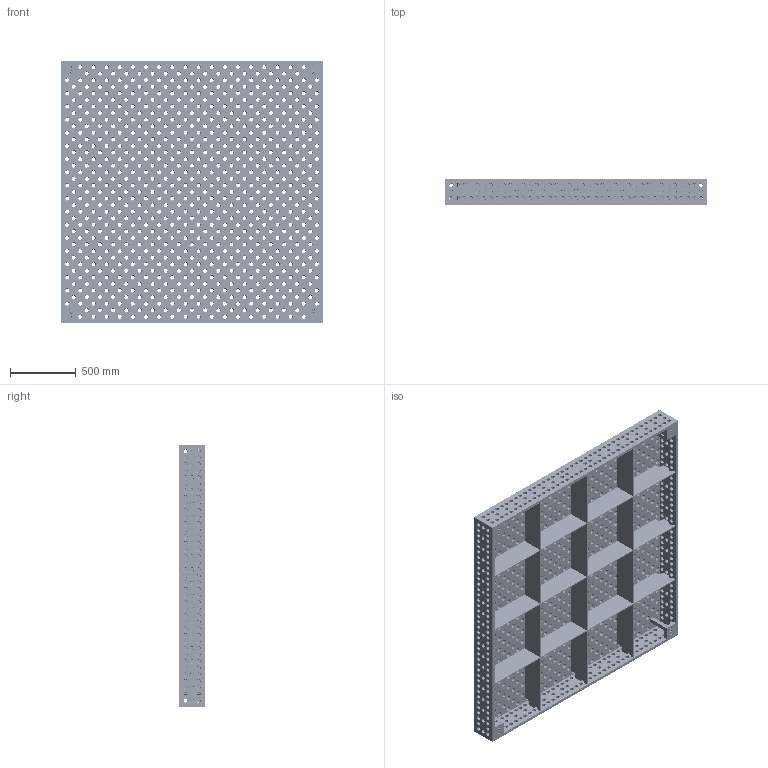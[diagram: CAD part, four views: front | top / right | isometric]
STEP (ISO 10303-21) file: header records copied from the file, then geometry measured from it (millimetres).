
FILE_DESCRIPTION (( 'STEP AP203' ), '1' );
FILE_NAME ('280045.XD7D.STEP', '2020-11-30T14:24:33', ( '' ), ( '' ), 'SwSTEP 2.0', 'SolidWorks 2019', '' );
FILE_SCHEMA (( 'CONFIG_CONTROL_DESIGN' ));
Products named in the file (1): 280045.XD7D
Bounding box: 2000 x 200 x 2000 mm (x, y, z)
Volume: 132472279.7 mm3; surface area: 15804724.9 mm2
Topology: 1 solids, 1 shells, 7178 faces, 16904 edges, 9708 vertices
Faces by surface type: cylinder 2376, cone 2358, torus 2310, plane 126, bspline 8
Entity records: 212987 total; most frequent: DIRECTION 42960, CARTESIAN_POINT 35131, ORIENTED_EDGE 33808, AXIS2_PLACEMENT_3D 18901, EDGE_CURVE 16904, CIRCLE 11730, VERTEX_POINT 9708, EDGE_LOOP 9544
